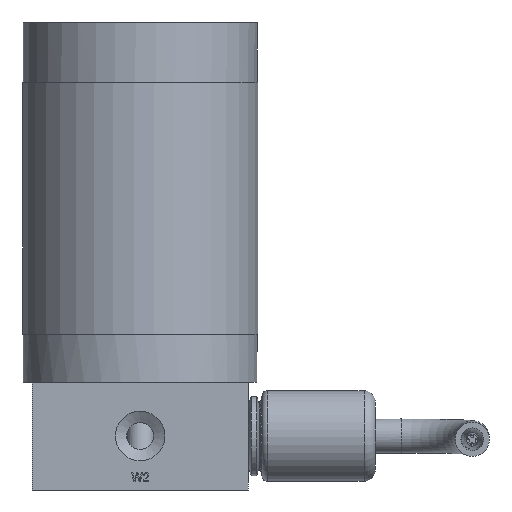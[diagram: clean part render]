
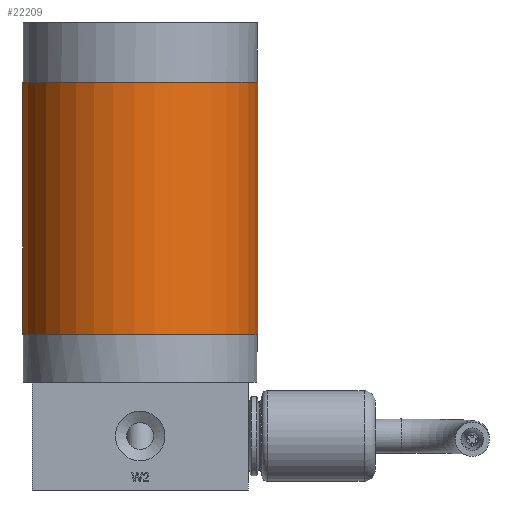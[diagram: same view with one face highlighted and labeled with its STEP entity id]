
A CAD part, left-side view. The second image highlights one B-rep face of the part: STEP entity #22209.
In plain terms, the highlighted cylindrical face has radius 20.765 mm (diameter 41.529 mm), a full revolution.
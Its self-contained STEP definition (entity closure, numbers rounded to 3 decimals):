
#2813=LINE('',#34278,#4516);
#4516=VECTOR('',#26561,20.765);
#5177=CYLINDRICAL_SURFACE('',#23535,20.765);
#5885=FACE_OUTER_BOUND('',#7172,.T.);
#7172=EDGE_LOOP('',(#16785,#16786,#16787,#16788));
#8031=CIRCLE('',#23536,20.765);
#8032=CIRCLE('',#23537,20.765);
#9298=VERTEX_POINT('',#34275);
#9299=VERTEX_POINT('',#34277);
#11966=EDGE_CURVE('',#9298,#9298,#8031,.T.);
#11967=EDGE_CURVE('',#9298,#9299,#2813,.T.);
#11968=EDGE_CURVE('',#9299,#9299,#8032,.T.);
#16785=ORIENTED_EDGE('',*,*,#11966,.T.);
#16786=ORIENTED_EDGE('',*,*,#11967,.T.);
#16787=ORIENTED_EDGE('',*,*,#11968,.F.);
#16788=ORIENTED_EDGE('',*,*,#11967,.F.);
#22209=ADVANCED_FACE('',(#5885),#5177,.T.);
#23535=AXIS2_PLACEMENT_3D('',#34274,#26557,#26558);
#23536=AXIS2_PLACEMENT_3D('',#34276,#26559,#26560);
#23537=AXIS2_PLACEMENT_3D('',#34279,#26562,#26563);
#26557=DIRECTION('center_axis',(0.,0.,1.));
#26558=DIRECTION('ref_axis',(-0.054,-0.999,0.));
#26559=DIRECTION('center_axis',(0.,0.,-1.));
#26560=DIRECTION('ref_axis',(-0.054,-0.999,0.));
#26561=DIRECTION('',(0.,0.,-1.));
#26562=DIRECTION('center_axis',(0.,0.,-1.));
#26563=DIRECTION('ref_axis',(-0.054,-0.999,0.));
#34274=CARTESIAN_POINT('Origin',(0.,0.,
27.456));
#34275=CARTESIAN_POINT('',(1.131,20.734,71.906));
#34276=CARTESIAN_POINT('Origin',(0.,0.,
71.906));
#34277=CARTESIAN_POINT('',(1.131,20.734,27.456));
#34278=CARTESIAN_POINT('',(1.131,20.734,27.456));
#34279=CARTESIAN_POINT('Origin',(0.,0.,
27.456));
